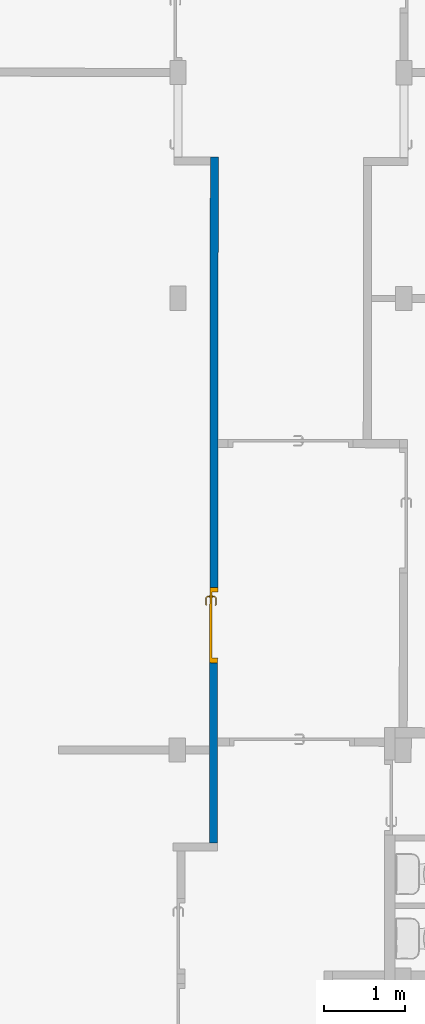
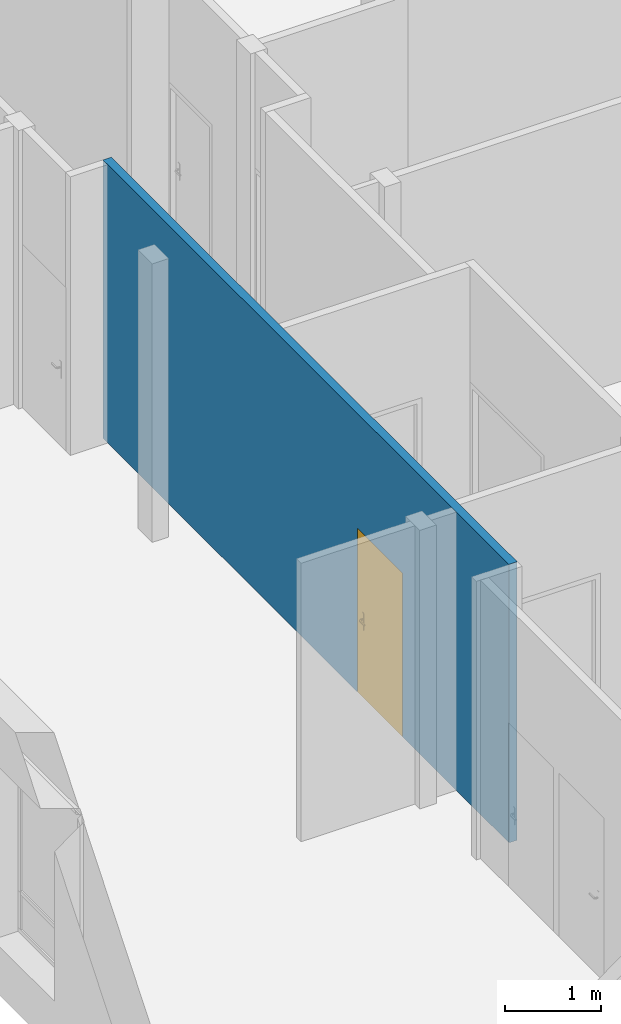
# One storey, part 60 of 101: 1 door, 1 wall, 1 opening.
"""IFC2X3 building model written with IfcOpenShell, lengths in metres."""

from ifc_helpers import new_model, entity, si_unit, converted_unit, derived_unit, direction, frame, frame_2d, origin, place, context, subcontext, project, spatial, rectangle, extrude, faceted_brep, source, transform, mapped, material, material_list, layer, layer_set, layer_usage, type_object, type_shapes, element, fill, save


model = new_model("IFC2X3")

# Units and contexts
model_context = context("Model", 3, precision=1e-05, world=origin(), true_north=direction((6.123233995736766e-17, 1.0)))
body_context = subcontext(model_context, "Body", "Model", "MODEL_VIEW")
ifc_project = project(units=[si_unit("LENGTHUNIT", "METRE"), si_unit("AREAUNIT", "SQUARE_METRE"), converted_unit("PLANEANGLEUNIT", "DEGREE", entity("IfcPlaneAngleMeasure", 0.017453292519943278), si_unit("PLANEANGLEUNIT", "RADIAN"), dimensions=[0, 0, 0, 0, 0, 0, 0]), derived_unit("THERMALTRANSMITTANCEUNIT", [(si_unit("MASSUNIT", "GRAM", prefix="KILO"), 1), (si_unit("THERMODYNAMICTEMPERATUREUNIT", "KELVIN"), -1), (si_unit("TIMEUNIT", "SECOND"), -3)])], contexts=[model_context])

# Site, building, storey
site_placement = place(None, frame((1253.6752467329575, 2072.143113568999, 91.49999999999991), z_axis=(0.0, 0.0, 1.0), x_axis=(0.7237211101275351, 0.6900925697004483, 0.0)))
site = spatial("IfcSite", under=ifc_project, at=site_placement, Name="Surface", CompositionType="ELEMENT")
building_placement = place(site_placement, origin())
building = spatial("IfcBuilding", under=site, at=building_placement, CompositionType="ELEMENT")
storey_placement = place(building_placement, origin())
storey = spatial("IfcBuildingStorey", under=building, at=storey_placement, Name="0- Rdc", CompositionType="ELEMENT", Elevation=-5.764692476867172e-13)

# Wall, opening, door
ifc_material_1 = material(Name="OMD_Béton blanc")
ifc_layer = layer(ifc_material_1, 0.1)
ifc_layer_set = layer_set([ifc_layer], Name="Mur de base:MUR 10")
ifc_layer_usage = layer_usage(ifc_layer_set, "AXIS2", "NEGATIVE", 0.05)
wall_type = type_object("IfcWallType", Name="Mur de base:MUR 10", PredefinedType="STANDARD", material=ifc_layer_set)
wall_placement = place(storey_placement, frame((163.48520250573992, 16.169890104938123, 0.0), z_axis=(0.0, 0.0, 1.0), x_axis=(-0.6909838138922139, -0.7228702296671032, 0.0)))
wall = element("IfcWallStandardCase", 1, at=wall_placement, inside=storey, type_object=wall_type, material=ifc_layer_usage, Name="Mur de base:MUR 10", ObjectType="Mur de base:MUR 10", context=body_context, shape_type="SweptSolid", body=[
    extrude(rectangle(XDim=8.499999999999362, YDim=0.10000000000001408, at=frame_2d((4.249999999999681, 3.587408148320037e-15), x_axis=(-1.0, 0.0))), origin(), (0.0, 0.0, 1.0), 3.5499999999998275),
])
opening_placement = place(wall_placement, frame((6.267499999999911, 0.05000000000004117, 0.0)))
opening = element("IfcOpeningElement", 2, at=opening_placement, cuts=wall, Name="OMD_Porte 1V tunnel:80x204:1", ObjectType="Opening", context=body_context, shape_type="SweptSolid", body=[
    extrude(rectangle(XDim=2.0850000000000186, YDim=0.9349999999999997, at=frame_2d((1.0425000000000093, 0.46749999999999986), x_axis=(1.0, 0.0))), frame((0.0, 0.0, 0.0), z_axis=(0.0, -1.0, 0.0), x_axis=(0.0, 0.0, 1.0)), (0.0, 0.0, 1.0), 0.09999999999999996),
])
ifc_material_2 = material(Name="Porte - Poignée")
ifc_material_3 = material(Name="OMD_Peinture mur")
ifc_material_4 = material(Name="OMD_Bois")
ifc_material_list = material_list([ifc_material_2, ifc_material_3, ifc_material_4])
door_style = type_object("IfcDoorStyle", Name="OMD_Porte 1V tunnel:80x204", ConstructionType="NOTDEFINED", OperationType="NOTDEFINED", ParameterTakesPrecedence=False, Sizeable=False, material=ifc_material_list)
shared_shape = source(origin(), body_context, "Body", "Brep", [
    faceted_brep([(0.21297470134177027, 0.03500000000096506, 1.0077804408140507), (0.20900000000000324, 0.03500000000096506, 1.0069999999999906), (0.208999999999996, 0.03500000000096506, 0.9929999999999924), (0.21297470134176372, 0.03500000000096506, 0.9922195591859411), (0.21702529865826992, 0.03500000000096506, 0.9922195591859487), (0.22100000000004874, 0.03500000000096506, 0.9930000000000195), (0.22100000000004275, 0.03500000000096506, 1.0069999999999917), (0.2170252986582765, 0.03500000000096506, 1.007780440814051), (0.22100000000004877, 0.05748520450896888, 0.9930000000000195), (0.22100000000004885, 0.057485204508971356, 1.0069999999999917), (0.21702529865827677, 0.059131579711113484, 1.007780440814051), (0.23083890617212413, 0.07294518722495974, 1.007780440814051), (0.2291610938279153, 0.07699578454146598, 1.0077804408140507), (0.21297470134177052, 0.060809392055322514, 1.0077804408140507), (0.3206847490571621, 0.0664673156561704, 1.0077804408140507), (0.32354895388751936, 0.06933152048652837, 1.0077804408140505), (0.31588468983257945, 0.07699578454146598, 1.0077804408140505), (0.31420687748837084, 0.07294518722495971, 1.0077804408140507), (0.20900000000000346, 0.06245576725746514, 1.0069999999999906), (0.20900000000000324, 0.06245576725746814, 0.9929999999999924), (0.21297470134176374, 0.06080939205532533, 0.9922195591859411), (0.22916109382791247, 0.07699578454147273, 0.9922195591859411), (0.23083890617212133, 0.07294518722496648, 0.9922195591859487), (0.21702529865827, 0.05913157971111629, 0.9922195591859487), (0.32354895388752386, 0.06933152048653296, 0.9922195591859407), (0.3206847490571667, 0.06646731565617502, 0.9922195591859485), (0.3142068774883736, 0.07294518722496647, 0.9922195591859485), (0.3158846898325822, 0.07699578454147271, 0.9922195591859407), (0.23248528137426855, 0.0689704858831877, 0.9930000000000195), (0.23248528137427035, 0.06897048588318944, 1.0069999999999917), (0.22751471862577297, 0.0809704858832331, 1.0069999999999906), (0.22751471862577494, 0.08097048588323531, 0.9929999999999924), (0.2725228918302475, 0.06897048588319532, 0.9930000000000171), (0.3125605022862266, 0.06897048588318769, 0.9930000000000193), (0.31256050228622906, 0.06897048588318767, 1.0069999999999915), (0.2725228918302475, 0.0689704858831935, 1.0069999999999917), (0.2725228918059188, 0.07512492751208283, 1.0078781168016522), (0.31753106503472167, 0.08097048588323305, 1.0069999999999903), (0.2776005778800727, 0.08097048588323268, 1.0069999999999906), (0.31753106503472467, 0.08097048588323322, 0.9929999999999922), (0.2674452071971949, 0.08097048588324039, 0.9929999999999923), (0.2725228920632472, 0.07512492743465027, 0.9921218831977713), (0.317874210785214, 0.06365677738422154, 0.9930000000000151), (0.32635949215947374, 0.07214205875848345, 0.99299999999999), (0.3263594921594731, 0.07214205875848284, 1.0069999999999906), (0.317874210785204, 0.06365677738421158, 1.0069999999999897)], [[[0, 1, 2, 3, 4, 5, 6, 7]], [[6, 5, 8, 9]], [[9, 10, 7, 6]], [[10, 11, 12, 13, 0, 7]], [[14, 15, 16, 17]], [[13, 18, 1, 0]], [[2, 1, 18, 19]], [[19, 20, 3, 2]], [[20, 21, 22, 23, 4, 3]], [[24, 25, 26, 27]], [[23, 8, 5, 4]], [[9, 8, 28, 29]], [[29, 11, 10, 9]], [[12, 30, 18, 13]], [[19, 18, 30, 31]], [[31, 21, 20, 19]], [[22, 28, 8, 23]], [[29, 28, 32, 33, 34, 35]], [[11, 35, 36]], [[16, 37, 38]], [[30, 12, 38]], [[38, 12, 36]], [[36, 35, 17]], [[17, 16, 36]], [[35, 11, 29]], [[34, 17, 35]], [[11, 36, 12]], [[38, 36, 16]], [[31, 30, 38, 37, 39, 40]], [[40, 41, 21]], [[41, 40, 27]], [[21, 31, 40]], [[39, 27, 40]], [[41, 32, 22]], [[22, 21, 41]], [[26, 32, 41]], [[28, 22, 32]], [[32, 26, 33]], [[26, 41, 27]], [[42, 25, 24, 43, 44, 15, 14, 45]], [[34, 33, 42, 45]], [[45, 14, 17, 34]], [[15, 44, 37, 16]], [[39, 37, 44, 43]], [[43, 24, 27, 39]], [[25, 42, 33, 26]]]),
    faceted_brep([(0.21297470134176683, -0.004999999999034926, 1.0077804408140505), (0.2170252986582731, -0.004999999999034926, 1.007780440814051), (0.2210000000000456, -0.004999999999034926, 1.006999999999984), (0.22100000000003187, -0.004999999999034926, 0.9930000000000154), (0.21702529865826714, -0.004999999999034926, 0.9922195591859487), (0.21297470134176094, -0.004999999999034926, 0.992219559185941), (0.20900000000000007, -0.004999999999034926, 0.992999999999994), (0.20900000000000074, -0.004999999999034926, 1.0069999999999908), (0.20900000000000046, -0.03265095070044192, 1.0069999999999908), (0.21297470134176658, -0.03100457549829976, 1.0077804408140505), (0.22902358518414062, -0.04705345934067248, 1.0077804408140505), (0.2307013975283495, -0.04300286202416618, 1.007780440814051), (0.21702529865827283, -0.02932676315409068, 1.007780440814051), (0.3235218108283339, -0.039389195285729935, 1.0077804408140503), (0.3206576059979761, -0.03652499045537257, 1.0077804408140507), (0.3141797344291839, -0.04300286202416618, 1.0077804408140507), (0.31585754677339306, -0.04705345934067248, 1.0077804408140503), (0.22100000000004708, -0.027680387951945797, 1.0069999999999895), (0.22100000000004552, -0.02768038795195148, 0.9930000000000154), (0.21702529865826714, -0.029326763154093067, 0.9922195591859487), (0.23070139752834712, -0.04300286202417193, 0.9922195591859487), (0.2290235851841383, -0.0470534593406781, 0.992219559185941), (0.21297470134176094, -0.031004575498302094, 0.992219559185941), (0.32065760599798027, -0.036524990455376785, 0.9922195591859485), (0.3235218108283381, -0.03938919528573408, 0.9922195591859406), (0.31585754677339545, -0.047053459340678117, 0.9922195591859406), (0.3141797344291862, -0.04300286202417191, 0.9922195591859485), (0.20899999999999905, -0.032650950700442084, 0.9929999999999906), (0.22737720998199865, -0.051028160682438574, 1.0069999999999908), (0.23234777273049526, -0.03902816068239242, 1.0069999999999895), (0.23234777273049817, -0.03902816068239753, 0.9930000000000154), (0.22737720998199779, -0.051028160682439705, 0.9929999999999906), (0.2673076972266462, -0.05102816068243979, 1.0069999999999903), (0.272440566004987, -0.0451828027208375, 1.0078781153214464), (0.3175039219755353, -0.05102816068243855, 1.0069999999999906), (0.27244056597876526, -0.039028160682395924, 1.0069999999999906), (0.3125333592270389, -0.03902816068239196, 1.0069999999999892), (0.31253335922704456, -0.03902816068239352, 0.9930000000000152), (0.27244056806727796, -0.03902816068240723, 0.9930000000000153), (0.27244056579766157, -0.04518280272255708, 0.9921218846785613), (0.3175039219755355, -0.051028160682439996, 0.9929999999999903), (0.27757344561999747, -0.051028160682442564, 0.9929999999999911), (0.3178470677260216, -0.03371445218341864, 1.0069999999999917), (0.3263323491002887, -0.04219973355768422, 1.0069999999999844), (0.3263323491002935, -0.04219973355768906, 0.9929999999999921), (0.31784706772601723, -0.033714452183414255, 0.9930000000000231)], [[[0, 1, 2, 3, 4, 5, 6, 7]], [[8, 9, 0, 7]], [[9, 10, 11, 12, 1, 0]], [[13, 14, 15, 16]], [[12, 17, 2, 1]], [[3, 2, 17, 18]], [[18, 19, 4, 3]], [[19, 20, 21, 22, 5, 4]], [[23, 24, 25, 26]], [[22, 27, 6, 5]], [[7, 6, 27, 8]], [[28, 10, 9, 8]], [[11, 29, 17, 12]], [[18, 17, 29, 30]], [[30, 20, 19, 18]], [[21, 31, 27, 22]], [[8, 27, 31, 28]], [[32, 33, 10]], [[33, 32, 16]], [[10, 28, 32]], [[34, 16, 32]], [[33, 35, 11]], [[11, 10, 33]], [[15, 35, 33]], [[29, 11, 35]], [[35, 15, 36]], [[15, 33, 16]], [[30, 29, 35, 36, 37, 38]], [[20, 38, 39]], [[25, 40, 41]], [[31, 21, 41]], [[41, 21, 39]], [[39, 38, 26]], [[26, 25, 39]], [[38, 20, 30]], [[37, 26, 38]], [[20, 39, 21]], [[41, 39, 25]], [[28, 31, 41, 40, 34, 32]], [[42, 14, 13, 43, 44, 24, 23, 45]], [[43, 13, 16, 34]], [[14, 42, 36, 15]], [[37, 36, 42, 45]], [[45, 23, 26, 37]], [[24, 44, 40, 25]], [[34, 40, 44, 43]]]),
    faceted_brep([(0.22535276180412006, 0.030000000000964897, 0.8660039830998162), (0.2350000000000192, 0.030000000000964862, 0.8700000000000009), (0.2350000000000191, 0.030000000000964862, 1.0800000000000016), (0.2253527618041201, 0.030000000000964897, 1.0839960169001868), (0.21500000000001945, 0.030000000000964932, 1.0853589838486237), (0.20464723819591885, 0.03000000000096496, 1.0839960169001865), (0.19500000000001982, 0.030000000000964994, 1.0800000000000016), (0.19500000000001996, 0.030000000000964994, 0.8700000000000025), (0.20464723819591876, 0.03000000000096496, 0.866003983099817), (0.21500000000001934, 0.030000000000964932, 0.8646410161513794), (0.22535276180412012, 0.0350000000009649, 1.0839960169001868), (0.2350000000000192, 0.03500000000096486, 1.0800000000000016), (0.23500000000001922, 0.03500000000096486, 0.8700000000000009), (0.22535276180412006, 0.0350000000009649, 0.8660039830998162), (0.21500000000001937, 0.03500000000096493, 0.8646410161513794), (0.20464723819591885, 0.03500000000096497, 0.866003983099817), (0.19500000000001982, 0.035000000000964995, 0.8700000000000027), (0.19500000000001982, 0.035000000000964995, 1.0800000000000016), (0.20464723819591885, 0.03500000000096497, 1.0839960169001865), (0.21500000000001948, 0.03500000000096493, 1.0853589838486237)], [[[0, 1, 2, 3, 4, 5, 6, 7, 8, 9]], [[10, 11, 12, 13, 14, 15, 16, 17, 18, 19]], [[11, 10, 3, 2]], [[3, 10, 19, 4]], [[19, 18, 5, 4]], [[18, 17, 6, 5]], [[7, 6, 17, 16]], [[16, 15, 8, 7]], [[8, 15, 14, 9]], [[14, 13, 0, 9]], [[13, 12, 1, 0]], [[2, 1, 12, 11]]]),
    faceted_brep([(0.22535276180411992, -0.004999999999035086, 0.8660039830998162), (0.2350000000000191, -0.004999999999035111, 0.8700000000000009), (0.23500000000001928, -0.004999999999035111, 1.0800000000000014), (0.22535276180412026, -0.004999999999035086, 1.0839960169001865), (0.2150000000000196, -0.004999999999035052, 1.0853589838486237), (0.20464723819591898, -0.0049999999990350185, 1.0839960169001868), (0.19500000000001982, -0.004999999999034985, 1.0800000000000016), (0.19500000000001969, -0.004999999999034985, 0.8700000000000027), (0.20464723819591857, -0.0049999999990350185, 0.8660039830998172), (0.21500000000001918, -0.004999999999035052, 0.8646410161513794), (0.22535276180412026, 0.0, 1.0839960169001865), (0.2350000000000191, 0.0, 1.0800000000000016), (0.2350000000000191, 0.0, 0.8700000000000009), (0.22535276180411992, 0.0, 0.8660039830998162), (0.21500000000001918, 0.0, 0.8646410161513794), (0.20464723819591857, 0.0, 0.8660039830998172), (0.19500000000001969, 0.0, 0.8700000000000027), (0.19500000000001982, 0.0, 1.0800000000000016), (0.20464723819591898, 0.0, 1.0839960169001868), (0.2150000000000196, 0.0, 1.0853589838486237)], [[[0, 1, 2, 3, 4, 5, 6, 7, 8, 9]], [[10, 11, 12, 13, 14, 15, 16, 17, 18, 19]], [[16, 15, 8, 7]], [[8, 15, 14, 9]], [[14, 13, 0, 9]], [[13, 12, 1, 0]], [[2, 1, 12, 11]], [[11, 10, 3, 2]], [[3, 10, 19, 4]], [[19, 18, 5, 4]], [[18, 17, 6, 5]], [[7, 6, 17, 16]]]),
    faceted_brep([(0.14500000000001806, 0.030000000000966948, 0.0), (0.9900000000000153, 0.030000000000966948, 0.0), (0.9900000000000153, 0.0, 0.0), (0.14500000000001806, 0.0, 0.0), (0.14500000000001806, 0.030000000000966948, 2.04), (0.14500000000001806, 0.0, 2.04), (0.9900000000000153, 0.0, 2.04), (0.9900000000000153, 0.030000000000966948, 2.04)], [[[0, 1, 2, 3]], [[4, 0, 3, 5]], [[5, 3, 2, 6]], [[6, 2, 1, 7]], [[7, 1, 0, 4]], [[4, 5, 6, 7]]]),
    faceted_brep([(0.10000000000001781, 0.0, 0.0), (0.10000000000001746, 0.10000000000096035, 0.0), (0.16000000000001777, 0.10000000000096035, 0.0), (0.16000000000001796, 0.03000000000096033, 0.0), (0.145000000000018, 0.03000000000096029, 0.0), (0.14500000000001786, 0.0, 0.0), (0.145000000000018, 0.0, 2.04), (0.9900000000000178, 0.0, 2.0400000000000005), (0.9900000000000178, 0.0, 0.0), (1.0350000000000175, 0.0, 0.0), (1.0350000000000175, 0.0, 2.085), (0.10000000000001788, 0.0, 2.085), (0.14500000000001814, 0.030000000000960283, 2.04), (0.16000000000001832, 0.03000000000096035, 2.0249999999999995), (0.9750000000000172, 0.03000000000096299, 2.0249999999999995), (0.9750000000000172, 0.03000000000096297, 0.0), (0.9900000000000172, 0.03000000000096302, 0.0), (0.9900000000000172, 0.03000000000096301, 2.0399999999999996), (0.16000000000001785, 0.10000000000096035, 2.0249999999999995), (0.1000000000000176, 0.10000000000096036, 2.085), (1.0350000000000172, 0.10000000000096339, 2.085), (1.0350000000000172, 0.10000000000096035, 0.0), (0.9750000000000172, 0.10000000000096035, 0.0), (0.9750000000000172, 0.10000000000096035, 2.025)], [[[0, 1, 2, 3, 4, 5]], [[5, 6, 7, 8, 9, 10, 11, 0]], [[4, 12, 6, 5]], [[3, 13, 14, 15, 16, 17, 12, 4]], [[2, 18, 13, 3]], [[1, 19, 20, 21, 22, 23, 18, 2]], [[0, 11, 19, 1]], [[10, 9, 21, 20]], [[9, 8, 16, 15, 22, 21]], [[17, 16, 8, 7]], [[23, 22, 15, 14]], [[12, 17, 7, 6]], [[18, 23, 14, 13]], [[11, 10, 20, 19]]]),
])
type_shapes(door_style, [shared_shape])
door_placement = place(opening_placement, frame((-1.034999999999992, -0.10000000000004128, 0.0)))
door = element("IfcDoor", 3, at=door_placement, inside=storey, type_object=door_style, material=ifc_material_list, Name="OMD_Porte 1V tunnel:80x204", ObjectType="OMD_Porte 1V tunnel:80x204", OverallHeight=2.0850000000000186, OverallWidth=0.9349999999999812, context=body_context, shape_type="MappedRepresentation", body=[
    mapped(shared_shape, transform((0.0, 0.0, 0.0), scale=1.0)),
])
fill(opening, door)

save(model, "model.ifc")
